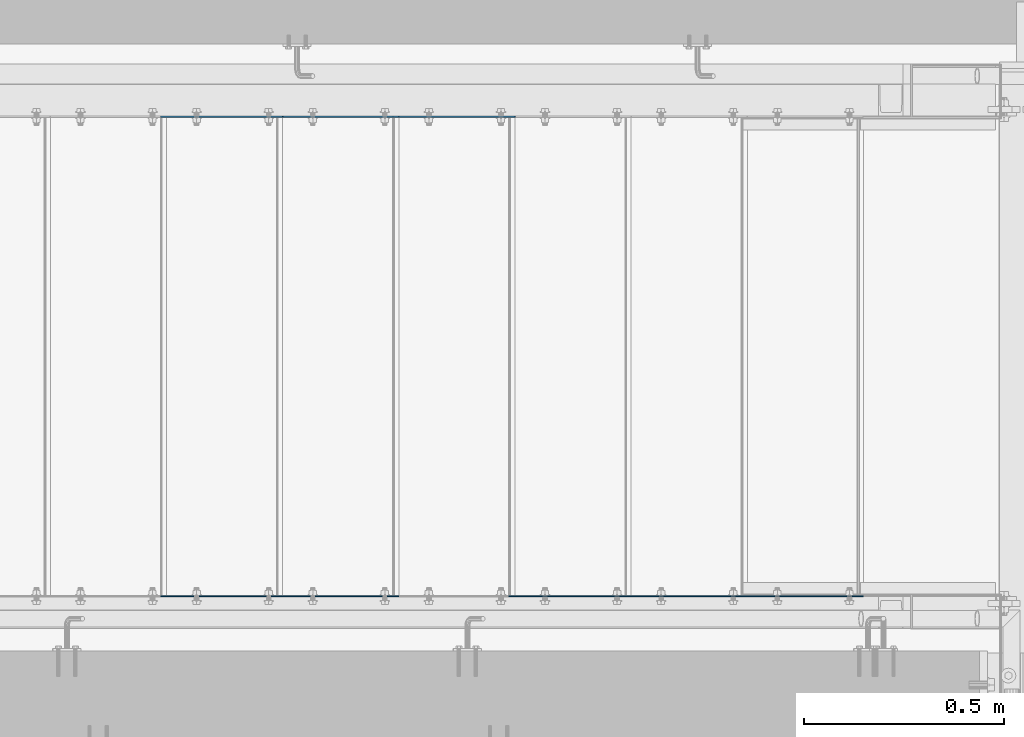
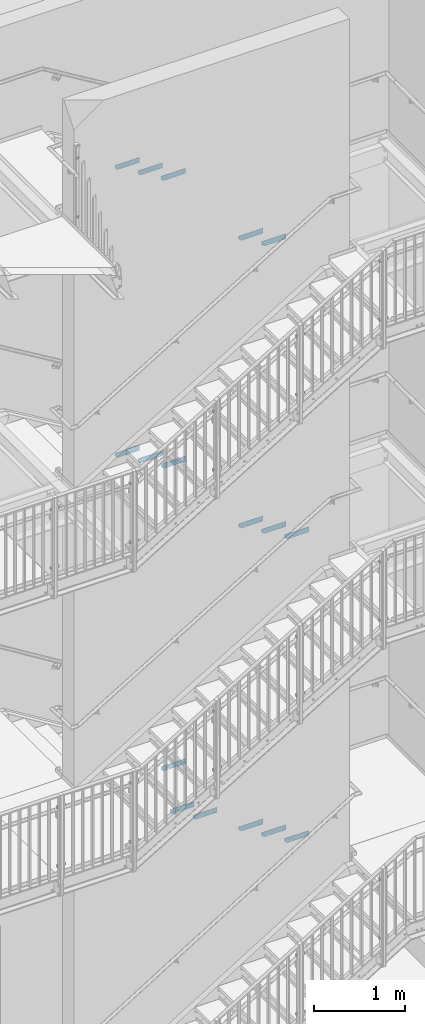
# One storey, part 64 of 410: 17 plates, 34 openings.
"""IFC2X3 building model written with IfcOpenShell, lengths in millimetres."""

from ifc_helpers import new_model, entity, si_unit, converted_unit, point, frame, frame_2d, origin, origin_with_axes, origin_2d_with_axis, place, context, project, spatial, polyline, circle_curve, line_curve, trimmed, segment, composite_curve, circle, outline, extrude, material, layer, layer_set, element, save


model = new_model("IFC2X3")

# Units and contexts
model_context = context("Model", 3, precision=1e-09, world=origin_with_axes())
ifc_project = project(units=[si_unit("LENGTHUNIT", "METRE", prefix="MILLI"), si_unit("AREAUNIT", "SQUARE_METRE"), si_unit("VOLUMEUNIT", "CUBIC_METRE"), converted_unit("PLANEANGLEUNIT", "DEGREE", entity("IfcPlaneAngleMeasure", 0.01745329), si_unit("PLANEANGLEUNIT", "RADIAN"), dimensions=[0, 0, 0, 0, 0, 0, 0])], contexts=[model_context])

# Site, building, storey
site_placement = place(None, origin_with_axes())
site = spatial("IfcSite", under=ifc_project, at=site_placement, Name="mKR Teilneubau & Sanierung BA1 - Ostfildern", CompositionType="ELEMENT")
building_placement = place(site_placement, origin_with_axes())
building = spatial("IfcBuilding", under=site, at=building_placement, Name="Struktur 1", CompositionType="ELEMENT")
storey_placement = place(building_placement, origin_with_axes())
storey = spatial("IfcBuildingStorey", under=building, at=storey_placement, Name="Default Storey", CompositionType="ELEMENT", Elevation=0.0)

# Plate, openings
ifc_material = material(Name="S235JR")
ifc_layer = layer(ifc_material, 3.0)
ifc_layer_set = layer_set([ifc_layer], Name="S235JR")
plate_1_placement = place(None, frame((35.0, 18436.999999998, 6800.0), z_axis=(0.0, 1.0, 0.0), x_axis=(0.0, 0.0, -1.0)))
plate_1 = element("IfcPlate", 1, at=plate_1_placement, inside=storey, material=ifc_layer_set, Name="Grate_Step#3", ObjectType="Grate_Step#3", context=model_context, shape_type="SweptSolid", body=[
    extrude(outline(polyline([(0.0, 0.0), (70.0, 0.0), (70.0, 275.0), (40.0, 305.0), (0.0, 305.0), (0.0, 0.0)])), origin_with_axes(), (0.0, 0.0, 1.0), 3.0),
])
opening_1_placement = place(plate_1_placement, frame((55.0, 35.0, -0.5), z_axis=(0.0, 0.0, 1.0), x_axis=(0.0, 1.0, 0.0)))
element("IfcOpeningElement", 2, at=opening_1_placement, cuts=plate_1, ObjectType="Opening", context=model_context, shape_type="SweptSolid", body=[
    extrude(circle(Radius=7.001, at=origin_2d_with_axis()), origin(), (0.0, 0.0, 1.0), 4.0),
])
opening_2_placement = place(plate_1_placement, frame((55.0, 215.0, -0.5), z_axis=(0.0, 0.0, 1.0), x_axis=(0.0, 1.0, 0.0)))
element("IfcOpeningElement", 3, at=opening_2_placement, cuts=plate_1, ObjectType="Opening", context=model_context, shape_type="SweptSolid", body=[
    extrude(outline(composite_curve([segment(trimmed(line_curve((-9.5, -7.001), (1.0, 0.0), 19.0), [point((-9.5, -7.001))], [point((9.5, -7.001))], True, "CARTESIAN"), True, "CONTINUOUS"), segment(trimmed(circle_curve(frame_2d((9.5, 0.0), x_axis=(1.0, 0.0)), 7.001), [point((9.5, -7.001))], [point((9.5, 7.001))], True, "CARTESIAN"), True, "CONTINUOUS"), segment(trimmed(line_curve((9.5, 7.001), (-1.0, 0.0), 19.0), [point((9.5, 7.001))], [point((-9.5, 7.001))], True, "CARTESIAN"), True, "CONTINUOUS"), segment(trimmed(circle_curve(frame_2d((-9.5, 0.0), x_axis=(1.0, 0.0)), 7.001), [point((-9.5, 7.001))], [point((-9.5, -7.001))], True, "CARTESIAN"), True, "CONTINUOUS")], self_intersect=False)), origin(), (0.0, 0.0, 1.0), 4.0),
])

plate_2_placement = place(None, frame((325.0, 18436.999999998, 6625.0), z_axis=(0.0, 1.0, 0.0), x_axis=(0.0, 0.0, -1.0)))
plate_2 = element("IfcPlate", 4, at=plate_2_placement, inside=storey, material=ifc_layer_set, Name="Grate_Step#3", ObjectType="Grate_Step#3", context=model_context, shape_type="SweptSolid", body=[
    extrude(outline(polyline([(0.0, 0.0), (70.0, 0.0), (70.0, 275.0), (40.0, 305.0), (0.0, 305.0), (0.0, 0.0)])), origin_with_axes(), (0.0, 0.0, 1.0), 3.0),
])
opening_3_placement = place(plate_2_placement, frame((55.0, 35.0, -0.5), z_axis=(0.0, 0.0, 1.0), x_axis=(0.0, 1.0, 0.0)))
element("IfcOpeningElement", 5, at=opening_3_placement, cuts=plate_2, ObjectType="Opening", context=model_context, shape_type="SweptSolid", body=[
    extrude(circle(Radius=7.001, at=origin_2d_with_axis()), origin(), (0.0, 0.0, 1.0), 4.0),
])
opening_4_placement = place(plate_2_placement, frame((55.0, 215.0, -0.5), z_axis=(0.0, 0.0, 1.0), x_axis=(0.0, 1.0, 0.0)))
element("IfcOpeningElement", 6, at=opening_4_placement, cuts=plate_2, ObjectType="Opening", context=model_context, shape_type="SweptSolid", body=[
    extrude(outline(composite_curve([segment(trimmed(line_curve((-9.5, -7.001), (1.0, 0.0), 19.0), [point((-9.5, -7.001))], [point((9.5, -7.001))], True, "CARTESIAN"), True, "CONTINUOUS"), segment(trimmed(circle_curve(frame_2d((9.5, 0.0), x_axis=(1.0, 0.0)), 7.001), [point((9.5, -7.001))], [point((9.5, 7.001))], True, "CARTESIAN"), True, "CONTINUOUS"), segment(trimmed(line_curve((9.5, 7.001), (-1.0, 0.0), 19.0), [point((9.5, 7.001))], [point((-9.5, 7.001))], True, "CARTESIAN"), True, "CONTINUOUS"), segment(trimmed(circle_curve(frame_2d((-9.5, 0.0), x_axis=(1.0, 0.0)), 7.001), [point((-9.5, 7.001))], [point((-9.5, -7.001))], True, "CARTESIAN"), True, "CONTINUOUS")], self_intersect=False)), origin(), (0.0, 0.0, 1.0), 4.0),
])

plate_3_placement = place(None, frame((615.0, 18436.999999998, 6450.0), z_axis=(0.0, 1.0, 0.0), x_axis=(0.0, 0.0, -1.0)))
plate_3 = element("IfcPlate", 7, at=plate_3_placement, inside=storey, material=ifc_layer_set, Name="Grate_Step#3", ObjectType="Grate_Step#3", context=model_context, shape_type="SweptSolid", body=[
    extrude(outline(polyline([(0.0, 0.0), (70.0, 0.0), (70.0, 275.0), (40.0, 305.0), (0.0, 305.0), (0.0, 0.0)])), origin_with_axes(), (0.0, 0.0, 1.0), 3.0),
])
opening_5_placement = place(plate_3_placement, frame((55.0, 215.0, -0.5), z_axis=(0.0, 0.0, 1.0), x_axis=(0.0, 1.0, 0.0)))
element("IfcOpeningElement", 8, at=opening_5_placement, cuts=plate_3, ObjectType="Opening", context=model_context, shape_type="SweptSolid", body=[
    extrude(outline(composite_curve([segment(trimmed(line_curve((-9.5, -7.001), (1.0, 0.0), 19.0), [point((-9.5, -7.001))], [point((9.5, -7.001))], True, "CARTESIAN"), True, "CONTINUOUS"), segment(trimmed(circle_curve(frame_2d((9.5, 0.0), x_axis=(1.0, 0.0)), 7.001), [point((9.5, -7.001))], [point((9.5, 7.001))], True, "CARTESIAN"), True, "CONTINUOUS"), segment(trimmed(line_curve((9.5, 7.001), (-1.0, 0.0), 19.0), [point((9.5, 7.001))], [point((-9.5, 7.001))], True, "CARTESIAN"), True, "CONTINUOUS"), segment(trimmed(circle_curve(frame_2d((-9.5, 0.0), x_axis=(1.0, 0.0)), 7.001), [point((-9.5, 7.001))], [point((-9.5, -7.001))], True, "CARTESIAN"), True, "CONTINUOUS")], self_intersect=False)), origin(), (0.0, 0.0, 1.0), 4.0),
])
opening_6_placement = place(plate_3_placement, frame((55.0, 35.0, -0.5), z_axis=(0.0, 0.0, 1.0), x_axis=(0.0, 1.0, 0.0)))
element("IfcOpeningElement", 9, at=opening_6_placement, cuts=plate_3, ObjectType="Opening", context=model_context, shape_type="SweptSolid", body=[
    extrude(circle(Radius=7.001, at=origin_2d_with_axis()), origin(), (0.0, 0.0, 1.0), 4.0),
])

plate_4_placement = place(None, frame((905.0, 17239.999999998, 6275.0), z_axis=(0.0, 1.0, 0.0), x_axis=(0.0, 0.0, -1.0)))
plate_4 = element("IfcPlate", 10, at=plate_4_placement, inside=storey, material=ifc_layer_set, Name="Grate_Step#2", ObjectType="Grate_Step#2", context=model_context, shape_type="SweptSolid", body=[
    extrude(outline(polyline([(0.0, 0.0), (70.0, 0.0), (70.0, 275.0), (40.0, 305.0), (0.0, 305.0), (0.0, 0.0)])), origin_with_axes(), (0.0, 0.0, 1.0), 3.0),
])
opening_7_placement = place(plate_4_placement, frame((55.0, 35.0, 3.5), z_axis=(0.0, 0.0, -1.0), x_axis=(0.0, 1.0, 0.0)))
element("IfcOpeningElement", 11, at=opening_7_placement, cuts=plate_4, ObjectType="Opening", context=model_context, shape_type="SweptSolid", body=[
    extrude(circle(Radius=7.001, at=origin_2d_with_axis()), origin(), (0.0, 0.0, 1.0), 4.0),
])
opening_8_placement = place(plate_4_placement, frame((55.0, 215.0, 3.5), z_axis=(0.0, 0.0, -1.0), x_axis=(0.0, 1.0, 0.0)))
element("IfcOpeningElement", 12, at=opening_8_placement, cuts=plate_4, ObjectType="Opening", context=model_context, shape_type="SweptSolid", body=[
    extrude(outline(composite_curve([segment(trimmed(line_curve((-9.5, -7.001), (1.0, 0.0), 19.0), [point((-9.5, -7.001))], [point((9.5, -7.001))], True, "CARTESIAN"), True, "CONTINUOUS"), segment(trimmed(circle_curve(frame_2d((9.5, 0.0), x_axis=(1.0, 0.0)), 7.001), [point((9.5, -7.001))], [point((9.5, 7.001))], True, "CARTESIAN"), True, "CONTINUOUS"), segment(trimmed(line_curve((9.5, 7.001), (-1.0, 0.0), 19.0), [point((9.5, 7.001))], [point((-9.5, 7.001))], True, "CARTESIAN"), True, "CONTINUOUS"), segment(trimmed(circle_curve(frame_2d((-9.5, 0.0), x_axis=(1.0, 0.0)), 7.001), [point((-9.5, 7.001))], [point((-9.5, -7.001))], True, "CARTESIAN"), True, "CONTINUOUS")], self_intersect=False)), origin(), (0.0, 0.0, 1.0), 4.0),
])

plate_5_placement = place(None, frame((1195.0, 17239.999999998, 6100.0), z_axis=(0.0, 1.0, 0.0), x_axis=(0.0, 0.0, -1.0)))
plate_5 = element("IfcPlate", 13, at=plate_5_placement, inside=storey, material=ifc_layer_set, Name="Grate_Step#2", ObjectType="Grate_Step#2", context=model_context, shape_type="SweptSolid", body=[
    extrude(outline(polyline([(0.0, 0.0), (70.0, 0.0), (70.0, 275.0), (40.0, 305.0), (0.0, 305.0), (0.0, 0.0)])), origin_with_axes(), (0.0, 0.0, 1.0), 3.0),
])
opening_9_placement = place(plate_5_placement, frame((55.0, 35.0, 3.5), z_axis=(0.0, 0.0, -1.0), x_axis=(0.0, 1.0, 0.0)))
element("IfcOpeningElement", 14, at=opening_9_placement, cuts=plate_5, ObjectType="Opening", context=model_context, shape_type="SweptSolid", body=[
    extrude(circle(Radius=7.001, at=origin_2d_with_axis()), origin(), (0.0, 0.0, 1.0), 4.0),
])
opening_10_placement = place(plate_5_placement, frame((55.0, 215.0, 3.5), z_axis=(0.0, 0.0, -1.0), x_axis=(0.0, 1.0, 0.0)))
element("IfcOpeningElement", 15, at=opening_10_placement, cuts=plate_5, ObjectType="Opening", context=model_context, shape_type="SweptSolid", body=[
    extrude(outline(composite_curve([segment(trimmed(line_curve((-9.5, -7.001), (1.0, 0.0), 19.0), [point((-9.5, -7.001))], [point((9.5, -7.001))], True, "CARTESIAN"), True, "CONTINUOUS"), segment(trimmed(circle_curve(frame_2d((9.5, 0.0), x_axis=(1.0, 0.0)), 7.001), [point((9.5, -7.001))], [point((9.5, 7.001))], True, "CARTESIAN"), True, "CONTINUOUS"), segment(trimmed(line_curve((9.5, 7.001), (-1.0, 0.0), 19.0), [point((9.5, 7.001))], [point((-9.5, 7.001))], True, "CARTESIAN"), True, "CONTINUOUS"), segment(trimmed(circle_curve(frame_2d((-9.5, 0.0), x_axis=(1.0, 0.0)), 7.001), [point((-9.5, 7.001))], [point((-9.5, -7.001))], True, "CARTESIAN"), True, "CONTINUOUS")], self_intersect=False)), origin(), (0.0, 0.0, 1.0), 4.0),
])

plate_6_placement = place(None, frame((1485.0, 17239.999999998, 2086.956522), z_axis=(0.0, 1.0, 0.0), x_axis=(0.0, 0.0, -1.0)))
plate_6 = element("IfcPlate", 16, at=plate_6_placement, inside=storey, material=ifc_layer_set, Name="Grate_Step#2", ObjectType="Grate_Step#2", context=model_context, shape_type="SweptSolid", body=[
    extrude(outline(polyline([(0.0, 0.0), (70.0, 0.0), (70.0, 275.0), (40.0, 305.0), (0.0, 305.0), (0.0, 0.0)])), origin_with_axes(), (0.0, 0.0, 1.0), 3.0),
])
opening_11_placement = place(plate_6_placement, frame((55.0, 215.0, 3.5), z_axis=(0.0, 0.0, -1.0), x_axis=(0.0, 1.0, 0.0)))
element("IfcOpeningElement", 17, at=opening_11_placement, cuts=plate_6, ObjectType="Opening", context=model_context, shape_type="SweptSolid", body=[
    extrude(outline(composite_curve([segment(trimmed(line_curve((-9.5, -7.001), (1.0, 0.0), 19.0), [point((-9.5, -7.001))], [point((9.5, -7.001))], True, "CARTESIAN"), True, "CONTINUOUS"), segment(trimmed(circle_curve(frame_2d((9.5, 0.0), x_axis=(1.0, 0.0)), 7.001), [point((9.5, -7.001))], [point((9.5, 7.001))], True, "CARTESIAN"), True, "CONTINUOUS"), segment(trimmed(line_curve((9.5, 7.001), (-1.0, 0.0), 19.0), [point((9.5, 7.001))], [point((-9.5, 7.001))], True, "CARTESIAN"), True, "CONTINUOUS"), segment(trimmed(circle_curve(frame_2d((-9.5, 0.0), x_axis=(1.0, 0.0)), 7.001), [point((-9.5, 7.001))], [point((-9.5, -7.001))], True, "CARTESIAN"), True, "CONTINUOUS")], self_intersect=False)), origin(), (0.0, 0.0, 1.0), 4.0),
])
opening_12_placement = place(plate_6_placement, frame((55.0, 35.0, 3.5), z_axis=(0.0, 0.0, -1.0), x_axis=(0.0, 1.0, 0.0)))
element("IfcOpeningElement", 18, at=opening_12_placement, cuts=plate_6, ObjectType="Opening", context=model_context, shape_type="SweptSolid", body=[
    extrude(circle(Radius=7.001, at=origin_2d_with_axis()), origin(), (0.0, 0.0, 1.0), 4.0),
])

plate_7_placement = place(None, frame((1195.0, 17239.999999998, 2260.8695655), z_axis=(0.0, 1.0, 0.0), x_axis=(0.0, 0.0, -1.0)))
plate_7 = element("IfcPlate", 19, at=plate_7_placement, inside=storey, material=ifc_layer_set, Name="Grate_Step#2", ObjectType="Grate_Step#2", context=model_context, shape_type="SweptSolid", body=[
    extrude(outline(polyline([(0.0, 0.0), (70.0, 0.0), (70.0, 275.0), (40.0, 305.0), (0.0, 305.0), (0.0, 0.0)])), origin_with_axes(), (0.0, 0.0, 1.0), 3.0),
])
opening_13_placement = place(plate_7_placement, frame((55.0, 35.0, 3.5), z_axis=(0.0, 0.0, -1.0), x_axis=(0.0, 1.0, 0.0)))
element("IfcOpeningElement", 20, at=opening_13_placement, cuts=plate_7, ObjectType="Opening", context=model_context, shape_type="SweptSolid", body=[
    extrude(circle(Radius=7.001, at=origin_2d_with_axis()), origin(), (0.0, 0.0, 1.0), 4.0),
])
opening_14_placement = place(plate_7_placement, frame((55.0, 215.0, 3.5), z_axis=(0.0, 0.0, -1.0), x_axis=(0.0, 1.0, 0.0)))
element("IfcOpeningElement", 21, at=opening_14_placement, cuts=plate_7, ObjectType="Opening", context=model_context, shape_type="SweptSolid", body=[
    extrude(outline(composite_curve([segment(trimmed(line_curve((-9.5, -7.001), (1.0, 0.0), 19.0), [point((-9.5, -7.001))], [point((9.5, -7.001))], True, "CARTESIAN"), True, "CONTINUOUS"), segment(trimmed(circle_curve(frame_2d((9.5, 0.0), x_axis=(1.0, 0.0)), 7.001), [point((9.5, -7.001))], [point((9.5, 7.001))], True, "CARTESIAN"), True, "CONTINUOUS"), segment(trimmed(line_curve((9.5, 7.001), (-1.0, 0.0), 19.0), [point((9.5, 7.001))], [point((-9.5, 7.001))], True, "CARTESIAN"), True, "CONTINUOUS"), segment(trimmed(circle_curve(frame_2d((-9.5, 0.0), x_axis=(1.0, 0.0)), 7.001), [point((-9.5, 7.001))], [point((-9.5, -7.001))], True, "CARTESIAN"), True, "CONTINUOUS")], self_intersect=False)), origin(), (0.0, 0.0, 1.0), 4.0),
])

plate_8_placement = place(None, frame((905.0, 17239.999999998, 2434.782609), z_axis=(0.0, 1.0, 0.0), x_axis=(0.0, 0.0, -1.0)))
plate_8 = element("IfcPlate", 22, at=plate_8_placement, inside=storey, material=ifc_layer_set, Name="Grate_Step#2", ObjectType="Grate_Step#2", context=model_context, shape_type="SweptSolid", body=[
    extrude(outline(polyline([(0.0, 0.0), (70.0, 0.0), (70.0, 275.0), (40.0, 305.0), (0.0, 305.0), (0.0, 0.0)])), origin_with_axes(), (0.0, 0.0, 1.0), 3.0),
])
opening_15_placement = place(plate_8_placement, frame((55.0, 215.0, 3.5), z_axis=(0.0, 0.0, -1.0), x_axis=(0.0, 1.0, 0.0)))
element("IfcOpeningElement", 23, at=opening_15_placement, cuts=plate_8, ObjectType="Opening", context=model_context, shape_type="SweptSolid", body=[
    extrude(outline(composite_curve([segment(trimmed(line_curve((-9.5, -7.001), (1.0, 0.0), 19.0), [point((-9.5, -7.001))], [point((9.5, -7.001))], True, "CARTESIAN"), True, "CONTINUOUS"), segment(trimmed(circle_curve(frame_2d((9.5, 0.0), x_axis=(1.0, 0.0)), 7.001), [point((9.5, -7.001))], [point((9.5, 7.001))], True, "CARTESIAN"), True, "CONTINUOUS"), segment(trimmed(line_curve((9.5, 7.001), (-1.0, 0.0), 19.0), [point((9.5, 7.001))], [point((-9.5, 7.001))], True, "CARTESIAN"), True, "CONTINUOUS"), segment(trimmed(circle_curve(frame_2d((-9.5, 0.0), x_axis=(1.0, 0.0)), 7.001), [point((-9.5, 7.001))], [point((-9.5, -7.001))], True, "CARTESIAN"), True, "CONTINUOUS")], self_intersect=False)), origin(), (0.0, 0.0, 1.0), 4.0),
])
opening_16_placement = place(plate_8_placement, frame((55.0, 35.0, 3.5), z_axis=(0.0, 0.0, -1.0), x_axis=(0.0, 1.0, 0.0)))
element("IfcOpeningElement", 24, at=opening_16_placement, cuts=plate_8, ObjectType="Opening", context=model_context, shape_type="SweptSolid", body=[
    extrude(circle(Radius=7.001, at=origin_2d_with_axis()), origin(), (0.0, 0.0, 1.0), 4.0),
])

plate_9_placement = place(None, frame((615.0, 18436.999999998, 2608.6956525), z_axis=(0.0, 1.0, 0.0), x_axis=(0.0, 0.0, -1.0)))
plate_9 = element("IfcPlate", 25, at=plate_9_placement, inside=storey, material=ifc_layer_set, Name="Grate_Step#3", ObjectType="Grate_Step#3", context=model_context, shape_type="SweptSolid", body=[
    extrude(outline(polyline([(0.0, 0.0), (70.0, 0.0), (70.0, 275.0), (40.0, 305.0), (0.0, 305.0), (0.0, 0.0)])), origin_with_axes(), (0.0, 0.0, 1.0), 3.0),
])
opening_17_placement = place(plate_9_placement, frame((55.0, 215.0, -0.5), z_axis=(0.0, 0.0, 1.0), x_axis=(0.0, 1.0, 0.0)))
element("IfcOpeningElement", 26, at=opening_17_placement, cuts=plate_9, ObjectType="Opening", context=model_context, shape_type="SweptSolid", body=[
    extrude(outline(composite_curve([segment(trimmed(line_curve((-9.5, -7.001), (1.0, 0.0), 19.0), [point((-9.5, -7.001))], [point((9.5, -7.001))], True, "CARTESIAN"), True, "CONTINUOUS"), segment(trimmed(circle_curve(frame_2d((9.5, 0.0), x_axis=(1.0, 0.0)), 7.001), [point((9.5, -7.001))], [point((9.5, 7.001))], True, "CARTESIAN"), True, "CONTINUOUS"), segment(trimmed(line_curve((9.5, 7.001), (-1.0, 0.0), 19.0), [point((9.5, 7.001))], [point((-9.5, 7.001))], True, "CARTESIAN"), True, "CONTINUOUS"), segment(trimmed(circle_curve(frame_2d((-9.5, 0.0), x_axis=(1.0, 0.0)), 7.001), [point((-9.5, 7.001))], [point((-9.5, -7.001))], True, "CARTESIAN"), True, "CONTINUOUS")], self_intersect=False)), origin(), (0.0, 0.0, 1.0), 4.0),
])
opening_18_placement = place(plate_9_placement, frame((55.0, 35.0, -0.5), z_axis=(0.0, 0.0, 1.0), x_axis=(0.0, 1.0, 0.0)))
element("IfcOpeningElement", 27, at=opening_18_placement, cuts=plate_9, ObjectType="Opening", context=model_context, shape_type="SweptSolid", body=[
    extrude(circle(Radius=7.001, at=origin_2d_with_axis()), origin(), (0.0, 0.0, 1.0), 4.0),
])

plate_10_placement = place(None, frame((325.0, 18436.999999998, 2782.608696), z_axis=(0.0, 1.0, 0.0), x_axis=(0.0, 0.0, -1.0)))
plate_10 = element("IfcPlate", 28, at=plate_10_placement, inside=storey, material=ifc_layer_set, Name="Grate_Step#3", ObjectType="Grate_Step#3", context=model_context, shape_type="SweptSolid", body=[
    extrude(outline(polyline([(0.0, 0.0), (70.0, 0.0), (70.0, 275.0), (40.0, 305.0), (0.0, 305.0), (0.0, 0.0)])), origin_with_axes(), (0.0, 0.0, 1.0), 3.0),
])
opening_19_placement = place(plate_10_placement, frame((55.0, 215.0, -0.5), z_axis=(0.0, 0.0, 1.0), x_axis=(0.0, 1.0, 0.0)))
element("IfcOpeningElement", 29, at=opening_19_placement, cuts=plate_10, ObjectType="Opening", context=model_context, shape_type="SweptSolid", body=[
    extrude(outline(composite_curve([segment(trimmed(line_curve((-9.5, -7.001), (1.0, 0.0), 19.0), [point((-9.5, -7.001))], [point((9.5, -7.001))], True, "CARTESIAN"), True, "CONTINUOUS"), segment(trimmed(circle_curve(frame_2d((9.5, 0.0), x_axis=(1.0, 0.0)), 7.001), [point((9.5, -7.001))], [point((9.5, 7.001))], True, "CARTESIAN"), True, "CONTINUOUS"), segment(trimmed(line_curve((9.5, 7.001), (-1.0, 0.0), 19.0), [point((9.5, 7.001))], [point((-9.5, 7.001))], True, "CARTESIAN"), True, "CONTINUOUS"), segment(trimmed(circle_curve(frame_2d((-9.5, 0.0), x_axis=(1.0, 0.0)), 7.001), [point((-9.5, 7.001))], [point((-9.5, -7.001))], True, "CARTESIAN"), True, "CONTINUOUS")], self_intersect=False)), origin(), (0.0, 0.0, 1.0), 4.0),
])
opening_20_placement = place(plate_10_placement, frame((55.0, 35.0, -0.5), z_axis=(0.0, 0.0, 1.0), x_axis=(0.0, 1.0, 0.0)))
element("IfcOpeningElement", 30, at=opening_20_placement, cuts=plate_10, ObjectType="Opening", context=model_context, shape_type="SweptSolid", body=[
    extrude(circle(Radius=7.001, at=origin_2d_with_axis()), origin(), (0.0, 0.0, 1.0), 4.0),
])

plate_11_placement = place(None, frame((35.0, 18436.999999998, 2956.5217395), z_axis=(0.0, 1.0, 0.0), x_axis=(0.0, 0.0, -1.0)))
plate_11 = element("IfcPlate", 31, at=plate_11_placement, inside=storey, material=ifc_layer_set, Name="Grate_Step#3", ObjectType="Grate_Step#3", context=model_context, shape_type="SweptSolid", body=[
    extrude(outline(polyline([(0.0, 0.0), (70.0, 0.0), (70.0, 275.0), (40.0, 305.0), (0.0, 305.0), (0.0, 0.0)])), origin_with_axes(), (0.0, 0.0, 1.0), 3.0),
])
opening_21_placement = place(plate_11_placement, frame((55.0, 35.0, -0.5), z_axis=(0.0, 0.0, 1.0), x_axis=(0.0, 1.0, 0.0)))
element("IfcOpeningElement", 32, at=opening_21_placement, cuts=plate_11, ObjectType="Opening", context=model_context, shape_type="SweptSolid", body=[
    extrude(circle(Radius=7.001, at=origin_2d_with_axis()), origin(), (0.0, 0.0, 1.0), 4.0),
])
opening_22_placement = place(plate_11_placement, frame((55.0, 215.0, -0.5), z_axis=(0.0, 0.0, 1.0), x_axis=(0.0, 1.0, 0.0)))
element("IfcOpeningElement", 33, at=opening_22_placement, cuts=plate_11, ObjectType="Opening", context=model_context, shape_type="SweptSolid", body=[
    extrude(outline(composite_curve([segment(trimmed(line_curve((-9.5, -7.001), (1.0, 0.0), 19.0), [point((-9.5, -7.001))], [point((9.5, -7.001))], True, "CARTESIAN"), True, "CONTINUOUS"), segment(trimmed(circle_curve(frame_2d((9.5, 0.0), x_axis=(1.0, 0.0)), 7.001), [point((9.5, -7.001))], [point((9.5, 7.001))], True, "CARTESIAN"), True, "CONTINUOUS"), segment(trimmed(line_curve((9.5, 7.001), (-1.0, 0.0), 19.0), [point((9.5, 7.001))], [point((-9.5, 7.001))], True, "CARTESIAN"), True, "CONTINUOUS"), segment(trimmed(circle_curve(frame_2d((-9.5, 0.0), x_axis=(1.0, 0.0)), 7.001), [point((-9.5, 7.001))], [point((-9.5, -7.001))], True, "CARTESIAN"), True, "CONTINUOUS")], self_intersect=False)), origin(), (0.0, 0.0, 1.0), 4.0),
])

plate_12_placement = place(None, frame((1485.0, 17239.999999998, -1966.8), z_axis=(0.0, 1.0, 0.0), x_axis=(0.0, 0.0, -1.0)))
plate_12 = element("IfcPlate", 34, at=plate_12_placement, inside=storey, material=ifc_layer_set, Name="Grate_Step#2", ObjectType="Grate_Step#2", context=model_context, shape_type="SweptSolid", body=[
    extrude(outline(polyline([(0.0, 0.0), (70.0, 0.0), (70.0, 275.0), (40.0, 305.0), (0.0, 305.0), (0.0, 0.0)])), origin_with_axes(), (0.0, 0.0, 1.0), 3.0),
])
opening_23_placement = place(plate_12_placement, frame((55.0, 35.0, 3.5), z_axis=(0.0, 0.0, -1.0), x_axis=(0.0, 1.0, 0.0)))
element("IfcOpeningElement", 35, at=opening_23_placement, cuts=plate_12, ObjectType="Opening", context=model_context, shape_type="SweptSolid", body=[
    extrude(circle(Radius=7.001, at=origin_2d_with_axis()), origin(), (0.0, 0.0, 1.0), 4.0),
])
opening_24_placement = place(plate_12_placement, frame((55.0, 215.0, 3.5), z_axis=(0.0, 0.0, -1.0), x_axis=(0.0, 1.0, 0.0)))
element("IfcOpeningElement", 36, at=opening_24_placement, cuts=plate_12, ObjectType="Opening", context=model_context, shape_type="SweptSolid", body=[
    extrude(outline(composite_curve([segment(trimmed(line_curve((-9.5, -7.001), (1.0, 0.0), 19.0), [point((-9.5, -7.001))], [point((9.5, -7.001))], True, "CARTESIAN"), True, "CONTINUOUS"), segment(trimmed(circle_curve(frame_2d((9.5, 0.0), x_axis=(1.0, 0.0)), 7.001), [point((9.5, -7.001))], [point((9.5, 7.001))], True, "CARTESIAN"), True, "CONTINUOUS"), segment(trimmed(line_curve((9.5, 7.001), (-1.0, 0.0), 19.0), [point((9.5, 7.001))], [point((-9.5, 7.001))], True, "CARTESIAN"), True, "CONTINUOUS"), segment(trimmed(circle_curve(frame_2d((-9.5, 0.0), x_axis=(1.0, 0.0)), 7.001), [point((-9.5, 7.001))], [point((-9.5, -7.001))], True, "CARTESIAN"), True, "CONTINUOUS")], self_intersect=False)), origin(), (0.0, 0.0, 1.0), 4.0),
])

plate_13_placement = place(None, frame((1195.0, 17239.999999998, -1788.0), z_axis=(0.0, 1.0, 0.0), x_axis=(0.0, 0.0, -1.0)))
plate_13 = element("IfcPlate", 37, at=plate_13_placement, inside=storey, material=ifc_layer_set, Name="Grate_Step#2", ObjectType="Grate_Step#2", context=model_context, shape_type="SweptSolid", body=[
    extrude(outline(polyline([(0.0, 0.0), (70.0, 0.0), (70.0, 275.0), (40.0, 305.0), (0.0, 305.0), (0.0, 0.0)])), origin_with_axes(), (0.0, 0.0, 1.0), 3.0),
])
opening_25_placement = place(plate_13_placement, frame((55.0, 215.0, 3.5), z_axis=(0.0, 0.0, -1.0), x_axis=(0.0, 1.0, 0.0)))
element("IfcOpeningElement", 38, at=opening_25_placement, cuts=plate_13, ObjectType="Opening", context=model_context, shape_type="SweptSolid", body=[
    extrude(outline(composite_curve([segment(trimmed(line_curve((-9.5, -7.001), (1.0, 0.0), 19.0), [point((-9.5, -7.001))], [point((9.5, -7.001))], True, "CARTESIAN"), True, "CONTINUOUS"), segment(trimmed(circle_curve(frame_2d((9.5, 0.0), x_axis=(1.0, 0.0)), 7.001), [point((9.5, -7.001))], [point((9.5, 7.001))], True, "CARTESIAN"), True, "CONTINUOUS"), segment(trimmed(line_curve((9.5, 7.001), (-1.0, 0.0), 19.0), [point((9.5, 7.001))], [point((-9.5, 7.001))], True, "CARTESIAN"), True, "CONTINUOUS"), segment(trimmed(circle_curve(frame_2d((-9.5, 0.0), x_axis=(1.0, 0.0)), 7.001), [point((-9.5, 7.001))], [point((-9.5, -7.001))], True, "CARTESIAN"), True, "CONTINUOUS")], self_intersect=False)), origin(), (0.0, 0.0, 1.0), 4.0),
])
opening_26_placement = place(plate_13_placement, frame((55.0, 35.0, 3.5), z_axis=(0.0, 0.0, -1.0), x_axis=(0.0, 1.0, 0.0)))
element("IfcOpeningElement", 39, at=opening_26_placement, cuts=plate_13, ObjectType="Opening", context=model_context, shape_type="SweptSolid", body=[
    extrude(circle(Radius=7.001, at=origin_2d_with_axis()), origin(), (0.0, 0.0, 1.0), 4.0),
])

plate_14_placement = place(None, frame((905.0, 17239.999999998, -1609.2), z_axis=(0.0, 1.0, 0.0), x_axis=(0.0, 0.0, -1.0)))
plate_14 = element("IfcPlate", 40, at=plate_14_placement, inside=storey, material=ifc_layer_set, Name="Grate_Step#2", ObjectType="Grate_Step#2", context=model_context, shape_type="SweptSolid", body=[
    extrude(outline(polyline([(0.0, 0.0), (70.0, 0.0), (70.0, 275.0), (40.0, 305.0), (0.0, 305.0), (0.0, 0.0)])), origin_with_axes(), (0.0, 0.0, 1.0), 3.0),
])
opening_27_placement = place(plate_14_placement, frame((55.0, 35.0, 3.5), z_axis=(0.0, 0.0, -1.0), x_axis=(0.0, 1.0, 0.0)))
element("IfcOpeningElement", 41, at=opening_27_placement, cuts=plate_14, ObjectType="Opening", context=model_context, shape_type="SweptSolid", body=[
    extrude(circle(Radius=7.001, at=origin_2d_with_axis()), origin(), (0.0, 0.0, 1.0), 4.0),
])
opening_28_placement = place(plate_14_placement, frame((55.0, 215.0, 3.5), z_axis=(0.0, 0.0, -1.0), x_axis=(0.0, 1.0, 0.0)))
element("IfcOpeningElement", 42, at=opening_28_placement, cuts=plate_14, ObjectType="Opening", context=model_context, shape_type="SweptSolid", body=[
    extrude(outline(composite_curve([segment(trimmed(line_curve((-9.5, -7.001), (1.0, 0.0), 19.0), [point((-9.5, -7.001))], [point((9.5, -7.001))], True, "CARTESIAN"), True, "CONTINUOUS"), segment(trimmed(circle_curve(frame_2d((9.5, 0.0), x_axis=(1.0, 0.0)), 7.001), [point((9.5, -7.001))], [point((9.5, 7.001))], True, "CARTESIAN"), True, "CONTINUOUS"), segment(trimmed(line_curve((9.5, 7.001), (-1.0, 0.0), 19.0), [point((9.5, 7.001))], [point((-9.5, 7.001))], True, "CARTESIAN"), True, "CONTINUOUS"), segment(trimmed(circle_curve(frame_2d((-9.5, 0.0), x_axis=(1.0, 0.0)), 7.001), [point((-9.5, 7.001))], [point((-9.5, -7.001))], True, "CARTESIAN"), True, "CONTINUOUS")], self_intersect=False)), origin(), (0.0, 0.0, 1.0), 4.0),
])

plate_15_placement = place(None, frame((615.0, 18436.999999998, -1430.4), z_axis=(0.0, 1.0, 0.0), x_axis=(0.0, 0.0, -1.0)))
plate_15 = element("IfcPlate", 43, at=plate_15_placement, inside=storey, material=ifc_layer_set, Name="Grate_Step#3", ObjectType="Grate_Step#3", context=model_context, shape_type="SweptSolid", body=[
    extrude(outline(polyline([(0.0, 0.0), (70.0, 0.0), (70.0, 275.0), (40.0, 305.0), (0.0, 305.0), (0.0, 0.0)])), origin_with_axes(), (0.0, 0.0, 1.0), 3.0),
])
opening_29_placement = place(plate_15_placement, frame((55.0, 35.0, -0.5), z_axis=(0.0, 0.0, 1.0), x_axis=(0.0, 1.0, 0.0)))
element("IfcOpeningElement", 44, at=opening_29_placement, cuts=plate_15, ObjectType="Opening", context=model_context, shape_type="SweptSolid", body=[
    extrude(circle(Radius=7.001, at=origin_2d_with_axis()), origin(), (0.0, 0.0, 1.0), 4.0),
])
opening_30_placement = place(plate_15_placement, frame((55.0, 215.0, -0.5), z_axis=(0.0, 0.0, 1.0), x_axis=(0.0, 1.0, 0.0)))
element("IfcOpeningElement", 45, at=opening_30_placement, cuts=plate_15, ObjectType="Opening", context=model_context, shape_type="SweptSolid", body=[
    extrude(outline(composite_curve([segment(trimmed(line_curve((-9.5, -7.001), (1.0, 0.0), 19.0), [point((-9.5, -7.001))], [point((9.5, -7.001))], True, "CARTESIAN"), True, "CONTINUOUS"), segment(trimmed(circle_curve(frame_2d((9.5, 0.0), x_axis=(1.0, 0.0)), 7.001), [point((9.5, -7.001))], [point((9.5, 7.001))], True, "CARTESIAN"), True, "CONTINUOUS"), segment(trimmed(line_curve((9.5, 7.001), (-1.0, 0.0), 19.0), [point((9.5, 7.001))], [point((-9.5, 7.001))], True, "CARTESIAN"), True, "CONTINUOUS"), segment(trimmed(circle_curve(frame_2d((-9.5, 0.0), x_axis=(1.0, 0.0)), 7.001), [point((-9.5, 7.001))], [point((-9.5, -7.001))], True, "CARTESIAN"), True, "CONTINUOUS")], self_intersect=False)), origin(), (0.0, 0.0, 1.0), 4.0),
])

plate_16_placement = place(None, frame((325.0, 17239.999999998, -1251.6), z_axis=(0.0, 1.0, 0.0), x_axis=(0.0, 0.0, -1.0)))
plate_16 = element("IfcPlate", 46, at=plate_16_placement, inside=storey, material=ifc_layer_set, Name="Grate_Step#2", ObjectType="Grate_Step#2", context=model_context, shape_type="SweptSolid", body=[
    extrude(outline(polyline([(0.0, 0.0), (70.0, 0.0), (70.0, 275.0), (40.0, 305.0), (0.0, 305.0), (0.0, 0.0)])), origin_with_axes(), (0.0, 0.0, 1.0), 3.0),
])
opening_31_placement = place(plate_16_placement, frame((55.0, 35.0, 3.5), z_axis=(0.0, 0.0, -1.0), x_axis=(0.0, 1.0, 0.0)))
element("IfcOpeningElement", 47, at=opening_31_placement, cuts=plate_16, ObjectType="Opening", context=model_context, shape_type="SweptSolid", body=[
    extrude(circle(Radius=7.001, at=origin_2d_with_axis()), origin(), (0.0, 0.0, 1.0), 4.0),
])
opening_32_placement = place(plate_16_placement, frame((55.0, 215.0, 3.5), z_axis=(0.0, 0.0, -1.0), x_axis=(0.0, 1.0, 0.0)))
element("IfcOpeningElement", 48, at=opening_32_placement, cuts=plate_16, ObjectType="Opening", context=model_context, shape_type="SweptSolid", body=[
    extrude(outline(composite_curve([segment(trimmed(line_curve((-9.5, -7.001), (1.0, 0.0), 19.0), [point((-9.5, -7.001))], [point((9.5, -7.001))], True, "CARTESIAN"), True, "CONTINUOUS"), segment(trimmed(circle_curve(frame_2d((9.5, 0.0), x_axis=(1.0, 0.0)), 7.001), [point((9.5, -7.001))], [point((9.5, 7.001))], True, "CARTESIAN"), True, "CONTINUOUS"), segment(trimmed(line_curve((9.5, 7.001), (-1.0, 0.0), 19.0), [point((9.5, 7.001))], [point((-9.5, 7.001))], True, "CARTESIAN"), True, "CONTINUOUS"), segment(trimmed(circle_curve(frame_2d((-9.5, 0.0), x_axis=(1.0, 0.0)), 7.001), [point((-9.5, 7.001))], [point((-9.5, -7.001))], True, "CARTESIAN"), True, "CONTINUOUS")], self_intersect=False)), origin(), (0.0, 0.0, 1.0), 4.0),
])

plate_17_placement = place(None, frame((35.0, 17239.999999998, -1072.8), z_axis=(0.0, 1.0, 0.0), x_axis=(0.0, 0.0, -1.0)))
plate_17 = element("IfcPlate", 49, at=plate_17_placement, inside=storey, material=ifc_layer_set, Name="Grate_Step#2", ObjectType="Grate_Step#2", context=model_context, shape_type="SweptSolid", body=[
    extrude(outline(polyline([(0.0, 0.0), (70.0, 0.0), (70.0, 275.0), (40.0, 305.0), (0.0, 305.0), (0.0, 0.0)])), origin_with_axes(), (0.0, 0.0, 1.0), 3.0),
])
opening_33_placement = place(plate_17_placement, frame((55.0, 215.0, 3.5), z_axis=(0.0, 0.0, -1.0), x_axis=(0.0, 1.0, 0.0)))
element("IfcOpeningElement", 50, at=opening_33_placement, cuts=plate_17, ObjectType="Opening", context=model_context, shape_type="SweptSolid", body=[
    extrude(outline(composite_curve([segment(trimmed(line_curve((-9.5, -7.001), (1.0, 0.0), 19.0), [point((-9.5, -7.001))], [point((9.5, -7.001))], True, "CARTESIAN"), True, "CONTINUOUS"), segment(trimmed(circle_curve(frame_2d((9.5, 0.0), x_axis=(1.0, 0.0)), 7.001), [point((9.5, -7.001))], [point((9.5, 7.001))], True, "CARTESIAN"), True, "CONTINUOUS"), segment(trimmed(line_curve((9.5, 7.001), (-1.0, 0.0), 19.0), [point((9.5, 7.001))], [point((-9.5, 7.001))], True, "CARTESIAN"), True, "CONTINUOUS"), segment(trimmed(circle_curve(frame_2d((-9.5, 0.0), x_axis=(1.0, 0.0)), 7.001), [point((-9.5, 7.001))], [point((-9.5, -7.001))], True, "CARTESIAN"), True, "CONTINUOUS")], self_intersect=False)), origin(), (0.0, 0.0, 1.0), 4.0),
])
opening_34_placement = place(plate_17_placement, frame((55.0, 35.0, 3.5), z_axis=(0.0, 0.0, -1.0), x_axis=(0.0, 1.0, 0.0)))
element("IfcOpeningElement", 51, at=opening_34_placement, cuts=plate_17, ObjectType="Opening", context=model_context, shape_type="SweptSolid", body=[
    extrude(circle(Radius=7.001, at=origin_2d_with_axis()), origin(), (0.0, 0.0, 1.0), 4.0),
])

save(model, "model.ifc")
